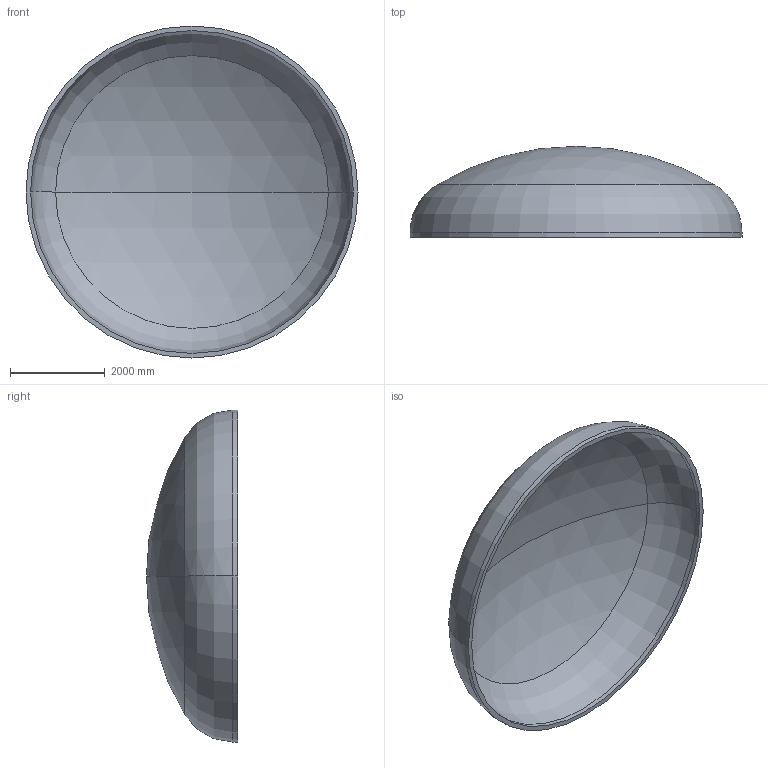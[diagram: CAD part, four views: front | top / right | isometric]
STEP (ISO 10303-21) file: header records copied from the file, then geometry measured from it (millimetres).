
FILE_DESCRIPTION (( 'STEP AP203' ), '1' );
FILE_NAME ('DIN 28013 Korbbogenform_-_Boden DIN 28013 - 7000 x 100 - I - s=98.step', '2016-07-04T10:49:58', ( '' ), ( '' ), 'SwSTEP 2.0', 'SolidWorks 2013', '' );
FILE_SCHEMA (( 'CONFIG_CONTROL_DESIGN' ));
Length unit declared in the file: millimetre
Products named in the file (1): DIN 28013 Korbbogenform_-_Boden DIN 28013 - 7000 x 100 - I - s=98
Bounding box: 7000 x 1920.02 x 7000 mm (x, y, z)
Volume: 5342088832.5 mm3; surface area: 111167255 mm2
Topology: 1 solids, 1 shells, 13 faces, 24 edges, 14 vertices
Faces by surface type: torus 4, cylinder 4, sphere 4, plane 1
Entity records: 407 total; most frequent: DIRECTION 72, CARTESIAN_POINT 52, ORIENTED_EDGE 48, AXIS2_PLACEMENT_3D 34, EDGE_CURVE 24, CIRCLE 20, EDGE_LOOP 14, VERTEX_POINT 14
